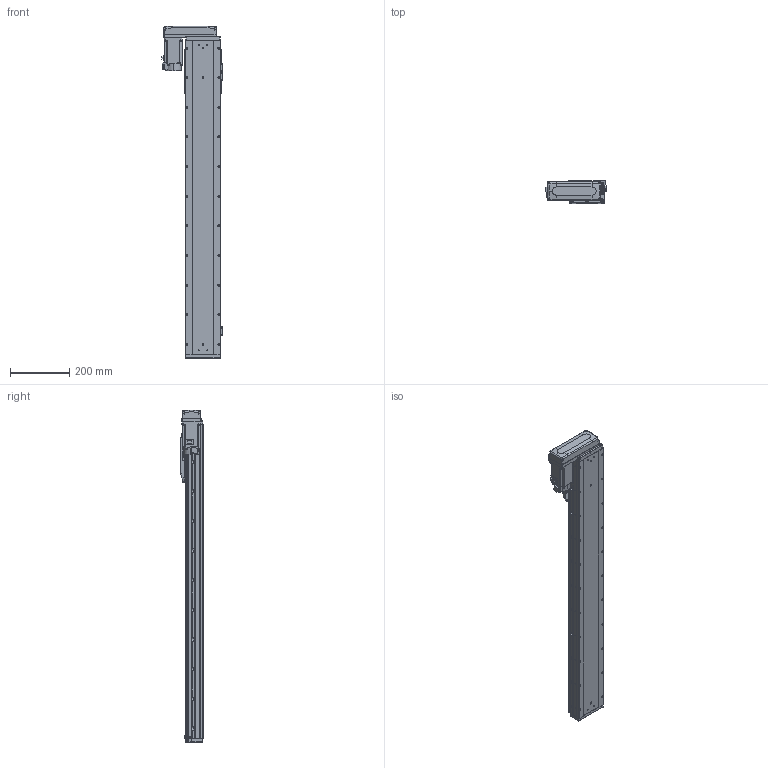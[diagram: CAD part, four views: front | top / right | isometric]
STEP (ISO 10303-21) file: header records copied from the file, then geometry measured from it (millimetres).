
FILE_DESCRIPTION (( 'STEP AP203' ), '1' );
FILE_NAME ('GTH12-850-BR-M40-C4.step', '2025-07-16T03:45:27', ( '' ), ( '' ), 'SwSTEP 2.0', 'SolidWorks 2023', '' );
FILE_SCHEMA (( 'CONFIG_CONTROL_DESIGN' ));
Length unit declared in the file: millimetre
Products named in the file (18): GTH12-850-BR-M40-C4; GTH120-003; hg-kn43j_-s100_; CTHA86-033_M40B; GTH50-023; GTH80-022; GTH120-001_850; GTH120-027-1_GTH120-027-2; BTH-M3X5X6; GTH50-024; GBT 70.1-M5×16; GTH120-006; GTH120-004; GTH80-028; GBT 70.3-M3×8; GBT96.1-2002 3×0.8; GTH120-013; GBT 70.1-M3×6
Assembly tree (59 placements, depth 2):
  GTH12-850-BR-M40-C4
    GTH120-001_850
    GTH120-003
    GTH120-006
    GTH120-004
    GTH120-013
    GBT 70.1-M3×6  x14
    GBT 70.1-M5×16  x10
    GBT 70.3-M3×8  x4
    GTH80-022
    GTH80-028  x2
    GTH50-023  x3
    GTH50-024  x3
    GBT96.1-2002 3×0.8  x6
    BTH-M3X5X6  x8
    hg-kn43j_-s100_
    CTHA86-033_M40B
    GTH120-027-1_GTH120-027-2
Bounding box: 203.5 x 76 x 1120.5 mm (x, y, z)
Volume: 8158218.2 mm3; surface area: 721241.5 mm2
Topology: 61 solids, 61 shells, 2499 faces, 5844 edges, 3587 vertices
Faces by surface type: plane 1280, cylinder 731, cone 300, torus 174, sphere 8, bspline 6
Entity records: 47314 total; most frequent: CARTESIAN_POINT 8016, DIRECTION 7852, ORIENTED_EDGE 7298, EDGE_CURVE 3649, AXIS2_PLACEMENT_3D 2744, VECTOR 2364, LINE 2364, VERTEX_POINT 2308
